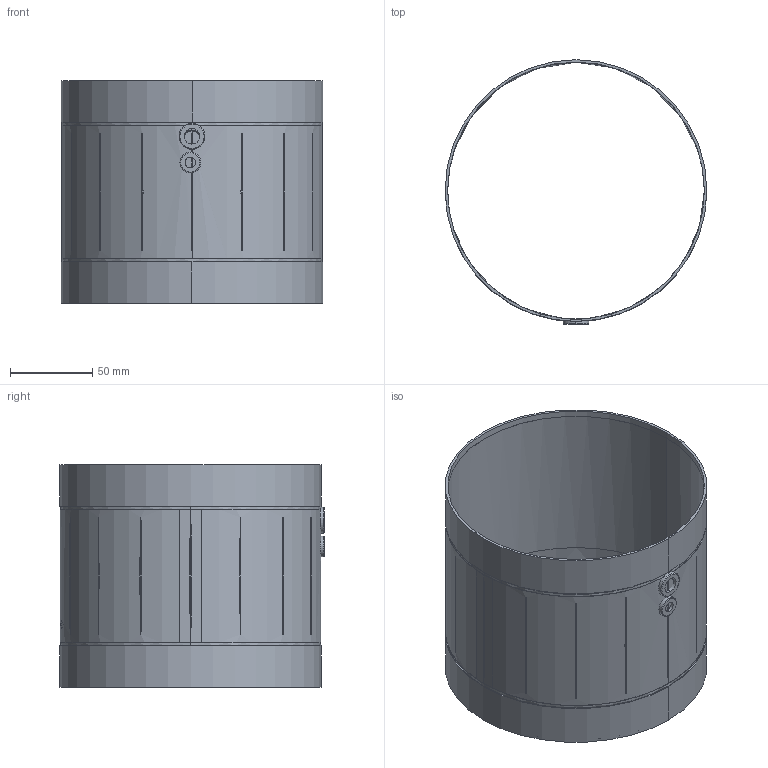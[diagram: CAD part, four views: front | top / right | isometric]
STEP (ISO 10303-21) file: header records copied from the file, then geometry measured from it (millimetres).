
FILE_DESCRIPTION (( 'STEP AP203' ), '1' );
FILE_NAME ('145798-00_EM160EC02.STEP', '2018-09-18T06:22:48', ( '' ), ( '' ), 'SwSTEP 2.0', 'SolidWorks 2017', '' );
FILE_SCHEMA (( 'CONFIG_CONTROL_DESIGN' ));
Length unit declared in the file: millimetre
Products named in the file (1): 145798-00_EM160EC02
Bounding box: 159 x 160.7 x 135 mm (x, y, z)
Surface area: 136118.6 mm2 (no closed solid volume)
Topology: 0 solids, 6 shells, 139 faces, 466 edges, 318 vertices
Faces by surface type: cylinder 51, bspline 47, plane 23, cone 10, torus 8
Entity records: 7996 total; most frequent: CARTESIAN_POINT 4454, ORIENTED_EDGE 724, DIRECTION 596, EDGE_CURVE 466, VERTEX_POINT 318, AXIS2_PLACEMENT_3D 259, B_SPLINE_CURVE_WITH_KNOTS 210, CIRCLE 166
